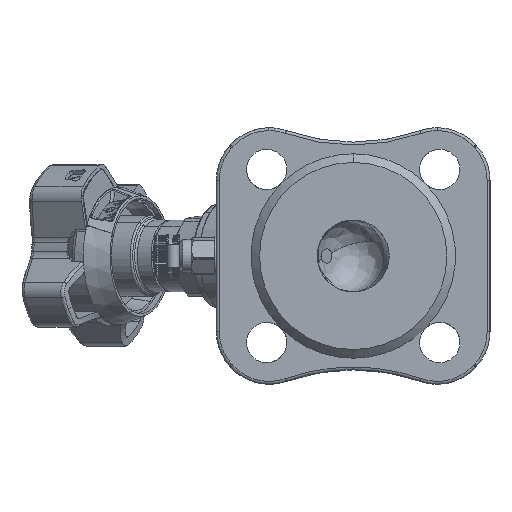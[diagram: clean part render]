
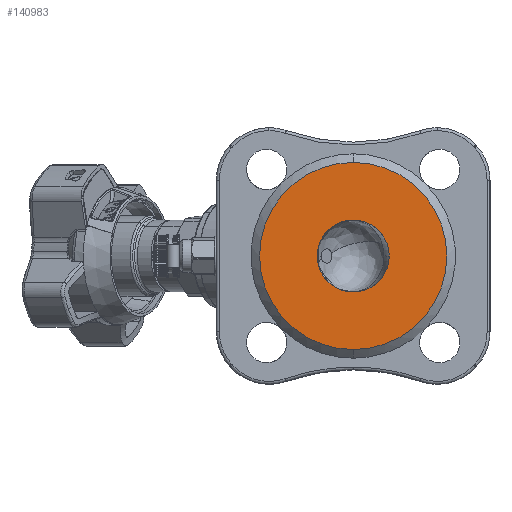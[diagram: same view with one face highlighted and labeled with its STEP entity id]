
A CAD part, left-side view. The second image highlights one B-rep face of the part: STEP entity #140983.
In plain terms, the highlighted planar face has unit normal (-1, 0, 0).
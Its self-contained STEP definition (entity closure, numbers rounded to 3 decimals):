
#11622 = VERTEX_POINT ( 'NONE', #169272 ) ;
#12598 = VERTEX_POINT ( 'NONE', #105615 ) ;
#12732 = ORIENTED_EDGE ( 'NONE', *, *, #85870, .F. ) ;
#15832 = ORIENTED_EDGE ( 'NONE', *, *, #165553, .T. ) ;
#21526 = FACE_BOUND ( 'NONE', #22820, .T. ) ;
#22820 = EDGE_LOOP ( 'NONE', ( #12732, #178432 ) ) ;
#23317 = PLANE ( 'NONE',  #174739 ) ;
#24851 = CARTESIAN_POINT ( 'NONE',  ( -80., 0., 0. ) ) ;
#37410 = CARTESIAN_POINT ( 'NONE',  ( -80., 0., 0. ) ) ;
#46615 = VERTEX_POINT ( 'NONE', #180751 ) ;
#51571 = DIRECTION ( 'NONE',  ( -1., 0., 0. ) ) ;
#66680 = DIRECTION ( 'NONE',  ( 0., 0., 1. ) ) ;
#75383 = CIRCLE ( 'NONE', #110606, 32.5 ) ;
#76258 = AXIS2_PLACEMENT_3D ( 'NONE', #95120, #79465, #108920 ) ;
#79465 = DIRECTION ( 'NONE',  ( -1., 0., 0. ) ) ;
#79502 = FACE_OUTER_BOUND ( 'NONE', #110209, .T. ) ;
#79561 = VERTEX_POINT ( 'NONE', #110056 ) ;
#85870 = EDGE_CURVE ( 'NONE', #79561, #11622, #108587, .T. ) ;
#95120 = CARTESIAN_POINT ( 'NONE',  ( -80., 0., 0. ) ) ;
#95164 = ORIENTED_EDGE ( 'NONE', *, *, #178442, .T. ) ;
#96679 = DIRECTION ( 'NONE',  ( 0., 0., 1. ) ) ;
#105612 = DIRECTION ( 'NONE',  ( -1., 0., 0. ) ) ;
#105615 = CARTESIAN_POINT ( 'NONE',  ( -80., 0., 32.5 ) ) ;
#106249 = DIRECTION ( 'NONE',  ( 0., 0., 1. ) ) ;
#108587 = CIRCLE ( 'NONE', #76258, 12.5 ) ;
#108920 = DIRECTION ( 'NONE',  ( 0., 0., 1. ) ) ;
#110056 = CARTESIAN_POINT ( 'NONE',  ( -80., 0., 12.5 ) ) ;
#110209 = EDGE_LOOP ( 'NONE', ( #95164, #15832 ) ) ;
#110606 = AXIS2_PLACEMENT_3D ( 'NONE', #163446, #150501, #66680 ) ;
#111364 = AXIS2_PLACEMENT_3D ( 'NONE', #24851, #51571, #96679 ) ;
#117142 = AXIS2_PLACEMENT_3D ( 'NONE', #37410, #105612, #120324 ) ;
#120324 = DIRECTION ( 'NONE',  ( 0., 0., 1. ) ) ;
#132040 = DIRECTION ( 'NONE',  ( -1., 0., 0. ) ) ;
#140983 = ADVANCED_FACE ( 'NONE', ( #79502, #21526 ), #23317, .T. ) ;
#146649 = CIRCLE ( 'NONE', #111364, 12.5 ) ;
#150501 = DIRECTION ( 'NONE',  ( -1., 0., 0. ) ) ;
#158367 = CIRCLE ( 'NONE', #117142, 32.5 ) ;
#163446 = CARTESIAN_POINT ( 'NONE',  ( -80., 0., 0. ) ) ;
#165553 = EDGE_CURVE ( 'NONE', #12598, #46615, #75383, .T. ) ;
#169272 = CARTESIAN_POINT ( 'NONE',  ( -80., 0., -12.5 ) ) ;
#174739 = AXIS2_PLACEMENT_3D ( 'NONE', #177210, #132040, #106249 ) ;
#177210 = CARTESIAN_POINT ( 'NONE',  ( -80., -32.5, 0. ) ) ;
#178432 = ORIENTED_EDGE ( 'NONE', *, *, #179888, .F. ) ;
#178442 = EDGE_CURVE ( 'NONE', #46615, #12598, #158367, .T. ) ;
#179888 = EDGE_CURVE ( 'NONE', #11622, #79561, #146649, .T. ) ;
#180751 = CARTESIAN_POINT ( 'NONE',  ( -80., 0., -32.5 ) ) ;
